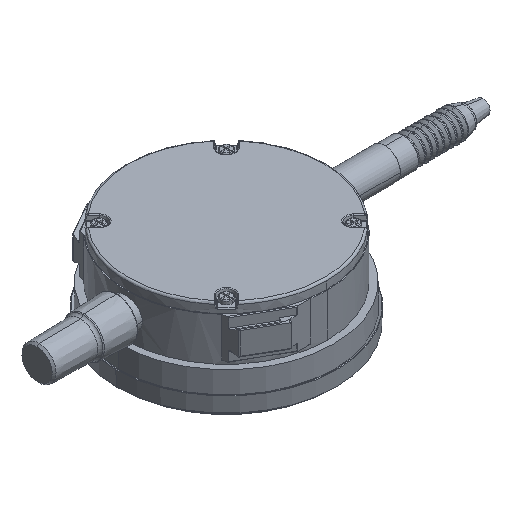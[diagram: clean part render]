
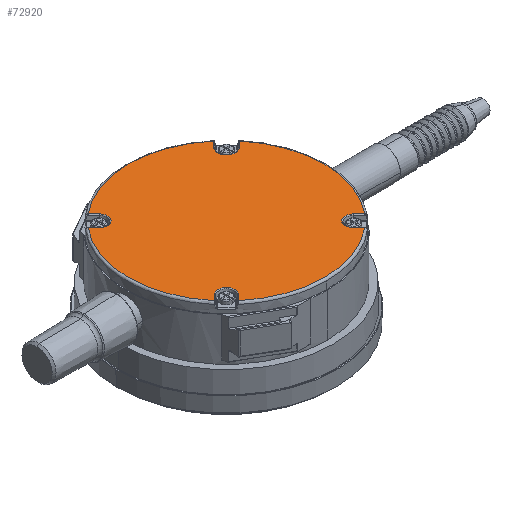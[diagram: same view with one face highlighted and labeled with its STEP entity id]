
A CAD part, isometric view. The second image highlights one B-rep face of the part: STEP entity #72920.
In plain terms, the highlighted planar face has unit normal (0, 0, 1).
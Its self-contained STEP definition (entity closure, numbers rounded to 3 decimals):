
#18400=CARTESIAN_POINT('',(-16.288,-19.359,2.1));
#18410=VERTEX_POINT('',#18400);
#25520=CARTESIAN_POINT('',(14.869,17.94,2.1));
#25530=VERTEX_POINT('',#25520);
#25560=CARTESIAN_POINT('',(0.,3.071,2.1));
#25570=DIRECTION('',(0.707,0.707,0.));
#25580=VECTOR('',#25570,1.);
#25590=LINE('',#25560,#25580);
#25600=CARTESIAN_POINT('',(16.288,19.359,2.1));
#25610=VERTEX_POINT('',#25600);
#25620=EDGE_CURVE('',#25530,#25610,#25590,.T.);
#46510=CARTESIAN_POINT('',(-19.359,-16.288,2.1));
#46520=VERTEX_POINT('',#46510);
#46550=CARTESIAN_POINT('',(-19.359,-16.288,2.1));
#46560=DIRECTION('',(0.707,0.707,0.));
#46570=VECTOR('',#46560,1.);
#46580=LINE('',#46550,#46570);
#46590=CARTESIAN_POINT('',(-17.94,-14.869,2.1));
#46600=VERTEX_POINT('',#46590);
#46610=EDGE_CURVE('',#46520,#46600,#46580,.T.);
#50680=CARTESIAN_POINT('',(14.728,-18.082,2.1));
#50690=VERTEX_POINT('',#50680);
#50880=CARTESIAN_POINT('',(16.134,-19.488,2.1));
#50890=VERTEX_POINT('',#50880);
#50920=CARTESIAN_POINT('',(0.,-3.354,2.1));
#50930=DIRECTION('',(-0.707,0.707,0.));
#50940=VECTOR('',#50930,1.);
#50950=LINE('',#50920,#50940);
#50960=EDGE_CURVE('',#50890,#50690,#50950,.T.);
#52170=CARTESIAN_POINT('',(-16.288,19.359,2.1));
#52180=VERTEX_POINT('',#52170);
#59240=CARTESIAN_POINT('',(17.94,14.869,2.1));
#59250=VERTEX_POINT('',#59240);
#59280=CARTESIAN_POINT('',(16.405,16.405,2.1));
#59290=DIRECTION('',(0.,0.,1.));
#59300=DIRECTION('',(-1.,0.,0.));
#59310=AXIS2_PLACEMENT_3D('',#59280,#59290,#59300);
#59320=CIRCLE('',#59310,2.172);
#59330=EDGE_CURVE('',#25530,#59250,#59320,.T.);
#68510=CARTESIAN_POINT('',(0.,0.,2.1));
#68520=DIRECTION('',(0.,0.,-1.));
#68530=DIRECTION('',(-1.,0.,0.));
#68540=AXIS2_PLACEMENT_3D('',#68510,#68520,#68530);
#68550=CIRCLE('',#68540,25.3);
#68560=EDGE_CURVE('',#52180,#25610,#68550,.T.);
#71940=CARTESIAN_POINT('',(0.,0.,2.1));
#71950=DIRECTION('',(0.,0.,-1.));
#71960=DIRECTION('',(1.,0.,0.));
#71970=AXIS2_PLACEMENT_3D('',#71940,#71950,#71960);
#71980=PLANE('',#71970);
#71990=CARTESIAN_POINT('',(0.,0.,2.1));
#72000=DIRECTION('',(0.,0.,-1.));
#72010=DIRECTION('',(-1.,0.,0.));
#72020=AXIS2_PLACEMENT_3D('',#71990,#72000,#72010);
#72030=CIRCLE('',#72020,25.3);
#72040=EDGE_CURVE('',#50890,#18410,#72030,.T.);
#72050=ORIENTED_EDGE('',*,*,#72040,.F.);
#72060=CARTESIAN_POINT('',(0.,-3.071,2.1));
#72070=DIRECTION('',(-0.707,-0.707,0.));
#72080=VECTOR('',#72070,1.);
#72090=LINE('',#72060,#72080);
#72100=CARTESIAN_POINT('',(-14.869,-17.94,2.1));
#72110=VERTEX_POINT('',#72100);
#72120=EDGE_CURVE('',#72110,#18410,#72090,.T.);
#72130=ORIENTED_EDGE('',*,*,#72120,.T.);
#72140=CARTESIAN_POINT('',(-16.405,-16.405,2.1));
#72150=DIRECTION('',(0.,0.,1.));
#72160=DIRECTION('',(-1.,0.,0.));
#72170=AXIS2_PLACEMENT_3D('',#72140,#72150,#72160);
#72180=CIRCLE('',#72170,2.172);
#72190=EDGE_CURVE('',#72110,#46600,#72180,.T.);
#72200=ORIENTED_EDGE('',*,*,#72190,.F.);
#72210=ORIENTED_EDGE('',*,*,#46610,.T.);
#72220=CARTESIAN_POINT('',(0.,0.,2.1));
#72230=DIRECTION('',(0.,0.,-1.));
#72240=DIRECTION('',(-1.,0.,0.));
#72250=AXIS2_PLACEMENT_3D('',#72220,#72230,#72240);
#72260=CIRCLE('',#72250,25.3);
#72270=CARTESIAN_POINT('',(-19.359,16.288,2.1));
#72280=VERTEX_POINT('',#72270);
#72290=EDGE_CURVE('',#46520,#72280,#72260,.T.);
#72300=ORIENTED_EDGE('',*,*,#72290,.F.);
#72310=CARTESIAN_POINT('',(0.,-3.071,2.1));
#72320=DIRECTION('',(-0.707,0.707,0.));
#72330=VECTOR('',#72320,1.);
#72340=LINE('',#72310,#72330);
#72350=CARTESIAN_POINT('',(-17.94,14.869,2.1));
#72360=VERTEX_POINT('',#72350);
#72370=EDGE_CURVE('',#72360,#72280,#72340,.T.);
#72380=ORIENTED_EDGE('',*,*,#72370,.T.);
#72390=CARTESIAN_POINT('',(-16.405,16.405,2.1));
#72400=DIRECTION('',(0.,0.,1.));
#72410=DIRECTION('',(-1.,0.,0.));
#72420=AXIS2_PLACEMENT_3D('',#72390,#72400,#72410);
#72430=CIRCLE('',#72420,2.172);
#72440=CARTESIAN_POINT('',(-14.869,17.94,2.1));
#72450=VERTEX_POINT('',#72440);
#72460=EDGE_CURVE('',#72360,#72450,#72430,.T.);
#72470=ORIENTED_EDGE('',*,*,#72460,.F.);
#72480=CARTESIAN_POINT('',(0.,3.071,2.1));
#72490=DIRECTION('',(0.707,-0.707,0.));
#72500=VECTOR('',#72490,1.);
#72510=LINE('',#72480,#72500);
#72520=EDGE_CURVE('',#52180,#72450,#72510,.T.);
#72530=ORIENTED_EDGE('',*,*,#72520,.T.);
#72540=ORIENTED_EDGE('',*,*,#68560,.F.);
#72550=ORIENTED_EDGE('',*,*,#25620,.T.);
#72560=ORIENTED_EDGE('',*,*,#59330,.F.);
#72570=CARTESIAN_POINT('',(0.,-3.071,2.1));
#72580=DIRECTION('',(-0.707,-0.707,0.));
#72590=VECTOR('',#72580,1.);
#72600=LINE('',#72570,#72590);
#72610=CARTESIAN_POINT('',(19.359,16.288,2.1));
#72620=VERTEX_POINT('',#72610);
#72630=EDGE_CURVE('',#72620,#59250,#72600,.T.);
#72640=ORIENTED_EDGE('',*,*,#72630,.T.);
#72650=CARTESIAN_POINT('',(0.,0.,2.1));
#72660=DIRECTION('',(0.,0.,-1.));
#72670=DIRECTION('',(-1.,0.,0.));
#72680=AXIS2_PLACEMENT_3D('',#72650,#72660,#72670);
#72690=CIRCLE('',#72680,25.3);
#72700=CARTESIAN_POINT('',(19.488,-16.134,2.1));
#72710=VERTEX_POINT('',#72700);
#72720=EDGE_CURVE('',#72620,#72710,#72690,.T.);
#72730=ORIENTED_EDGE('',*,*,#72720,.F.);
#72740=CARTESIAN_POINT('',(18.082,-14.728,2.1));
#72750=DIRECTION('',(0.707,-0.707,0.));
#72760=VECTOR('',#72750,1.);
#72770=LINE('',#72740,#72760);
#72780=CARTESIAN_POINT('',(18.082,-14.728,2.1));
#72790=VERTEX_POINT('',#72780);
#72800=EDGE_CURVE('',#72790,#72710,#72770,.T.);
#72810=ORIENTED_EDGE('',*,*,#72800,.T.);
#72820=CARTESIAN_POINT('',(16.405,-16.405,2.1));
#72830=DIRECTION('',(0.,0.,1.));
#72840=DIRECTION('',(-1.,0.,0.));
#72850=AXIS2_PLACEMENT_3D('',#72820,#72830,#72840);
#72860=CIRCLE('',#72850,2.372);
#72870=EDGE_CURVE('',#72790,#50690,#72860,.T.);
#72880=ORIENTED_EDGE('',*,*,#72870,.F.);
#72890=ORIENTED_EDGE('',*,*,#50960,.T.);
#72900=EDGE_LOOP('',(#72890,#72880,#72810,#72730,#72640,#72560,#72550,
#72540,#72530,#72470,#72380,#72300,#72210,#72200,#72130,#72050));
#72910=FACE_OUTER_BOUND('',#72900,.T.);
#72920=ADVANCED_FACE('',(#72910),#71980,.F.);
